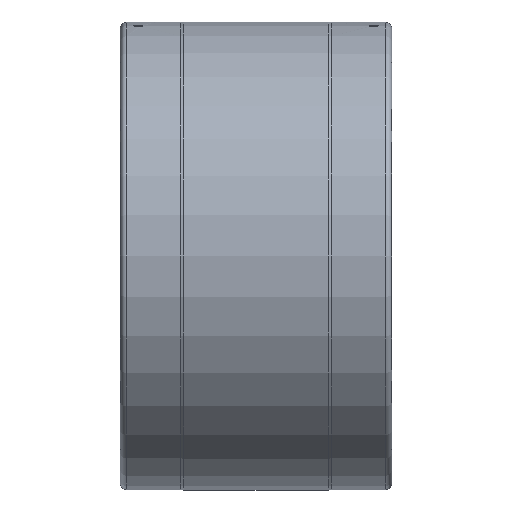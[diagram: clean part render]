
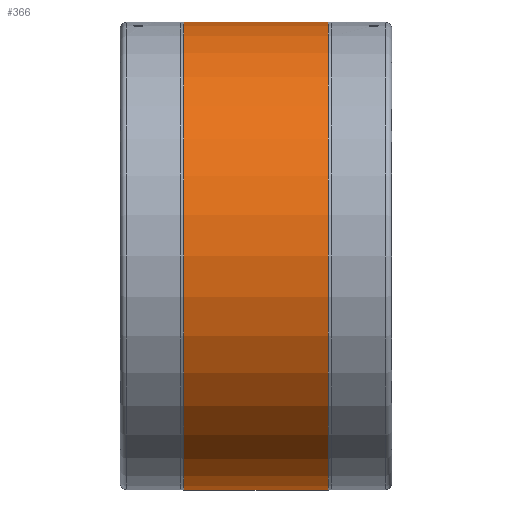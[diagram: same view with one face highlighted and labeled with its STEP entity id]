
A CAD part, front view. The second image highlights one B-rep face of the part: STEP entity #366.
In plain terms, the highlighted cylindrical face has radius 388 mm (diameter 776 mm), a full revolution.
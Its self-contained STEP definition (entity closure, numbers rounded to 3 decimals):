
#64=ORIENTED_EDGE('',*,*,#129,.T.);
#65=ORIENTED_EDGE('',*,*,#128,.F.);
#128=EDGE_CURVE('',#162,#162,#192,.T.);
#129=EDGE_CURVE('',#163,#163,#193,.T.);
#162=VERTEX_POINT('',#671);
#163=VERTEX_POINT('',#674);
#192=CIRCLE('',#419,388.);
#193=CIRCLE('',#421,388.);
#224=EDGE_LOOP('',(#64));
#225=EDGE_LOOP('',(#65));
#292=FACE_BOUND('',#224,.T.);
#293=FACE_BOUND('',#225,.T.);
#349=CYLINDRICAL_SURFACE('',#420,388.);
#366=ADVANCED_FACE('',(#292,#293),#349,.T.);
#419=AXIS2_PLACEMENT_3D('',#670,#487,#488);
#420=AXIS2_PLACEMENT_3D('',#672,#489,#490);
#421=AXIS2_PLACEMENT_3D('',#673,#491,#492);
#487=DIRECTION('',(-1.,0.,0.));
#488=DIRECTION('',(0.,0.,1.));
#489=DIRECTION('',(-1.,0.,0.));
#490=DIRECTION('',(0.,0.,1.));
#491=DIRECTION('',(-1.,0.,0.));
#492=DIRECTION('',(0.,0.,1.));
#670=CARTESIAN_POINT('',(-120.,0.,0.));
#671=CARTESIAN_POINT('',(-120.,0.,388.));
#672=CARTESIAN_POINT('',(-221.69,0.,0.));
#673=CARTESIAN_POINT('',(120.,0.,0.));
#674=CARTESIAN_POINT('',(120.,0.,388.));
